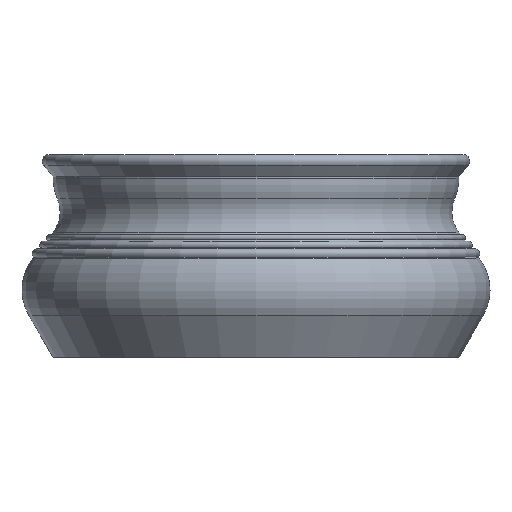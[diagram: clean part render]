
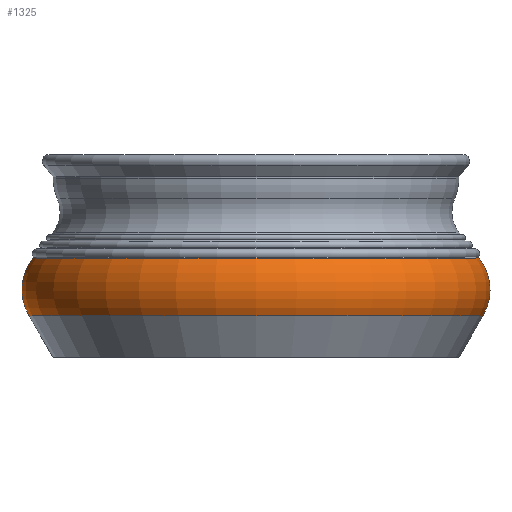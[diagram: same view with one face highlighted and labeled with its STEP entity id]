
A CAD part, front view. The second image highlights one B-rep face of the part: STEP entity #1325.
In plain terms, the highlighted toroidal (fillet/blend) face has major radius 134.901 mm and minor radius 38.099 mm.
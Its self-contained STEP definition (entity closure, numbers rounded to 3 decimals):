
#22=TOROIDAL_SURFACE('',#1505,134.901,38.099);
#166=FACE_OUTER_BOUND('',#284,.T.);
#284=EDGE_LOOP('',(#1208,#1209,#1210,#1211));
#526=CIRCLE('',#1467,167.883);
#549=CIRCLE('',#1506,164.889);
#550=CIRCLE('',#1507,38.099);
#653=VERTEX_POINT('',#2240);
#669=VERTEX_POINT('',#2303);
#818=EDGE_CURVE('',#653,#653,#526,.T.);
#849=EDGE_CURVE('',#669,#669,#549,.T.);
#850=EDGE_CURVE('',#669,#653,#550,.T.);
#1208=ORIENTED_EDGE('',*,*,#849,.F.);
#1209=ORIENTED_EDGE('',*,*,#850,.T.);
#1210=ORIENTED_EDGE('',*,*,#818,.T.);
#1211=ORIENTED_EDGE('',*,*,#850,.F.);
#1325=ADVANCED_FACE('',(#166),#22,.T.);
#1467=AXIS2_PLACEMENT_3D('',#2241,#1837,#1838);
#1505=AXIS2_PLACEMENT_3D('',#2302,#1921,#1922);
#1506=AXIS2_PLACEMENT_3D('',#2304,#1923,#1924);
#1507=AXIS2_PLACEMENT_3D('',#2305,#1925,#1926);
#1837=DIRECTION('center_axis',(0.,0.,1.));
#1838=DIRECTION('ref_axis',(1.,0.,0.));
#1921=DIRECTION('center_axis',(0.,0.,1.));
#1922=DIRECTION('ref_axis',(1.,0.,0.));
#1923=DIRECTION('center_axis',(0.,0.,1.));
#1924=DIRECTION('ref_axis',(1.,0.,0.));
#1925=DIRECTION('center_axis',(0.,-1.,0.));
#1926=DIRECTION('ref_axis',(-1.,0.,0.));
#2240=CARTESIAN_POINT('',(-167.883,0.,30.929));
#2241=CARTESIAN_POINT('Origin',(0.,0.,30.929));
#2302=CARTESIAN_POINT('Origin',(0.,0.,50.));
#2303=CARTESIAN_POINT('',(-164.889,0.,73.5));
#2304=CARTESIAN_POINT('Origin',(0.,0.,73.5));
#2305=CARTESIAN_POINT('Origin',(-134.901,0.,
50.));
